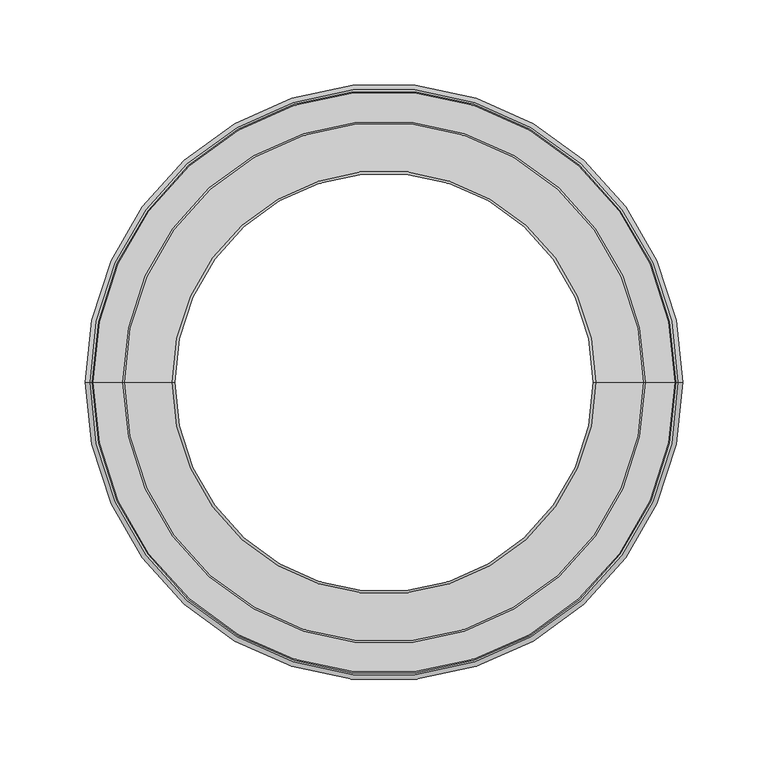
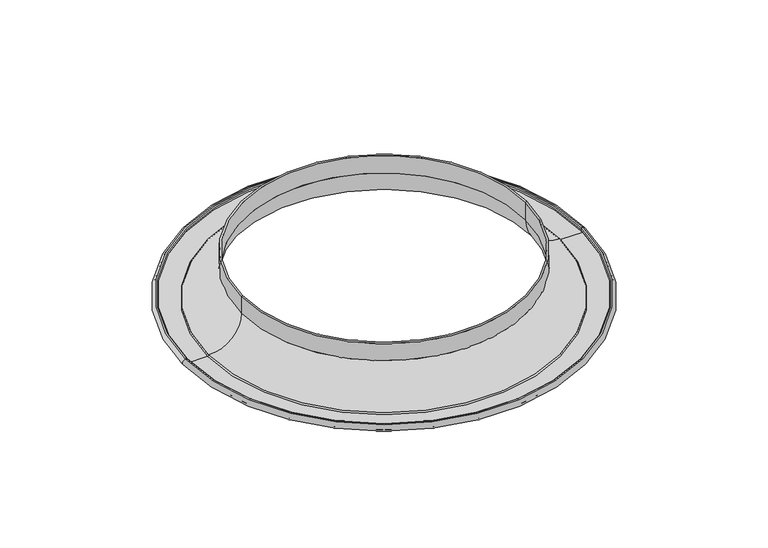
"""IFC4 building model written with IfcOpenShell, lengths in millimetres: air terminal geometry, AI_Bouche aération_Circulaire Reprise : ø250 mm."""

import ifcopenshell
import ifcopenshell.guid

model = None  # the IFC model being written
_history = None  # IfcOwnerHistory: only IFC2X3 demands one
_inside = {}  # id of a spatial element -> (the spatial element, [elements in it])
_under = {}  # id of a project, library or spatial element -> (it, [spatial elements below it])
_declared = {}  # id of a project -> (the project, [libraries it declares])
_typed = {}  # id of a type object -> (the type object, [elements of that type])
_made_of = {}  # id of a material, layer set ... -> (it, [elements and type objects made of it])


def new_model(schema):
    """Start an empty IFC model of exactly this schema.

    Asked for "IFC4X3", IfcOpenShell would pick the latest addendum, in which some entities
    have other attributes; the version numbers below select the first issue.
    IFC2X3 requires an IfcOwnerHistory on every rooted entity: one is made here for all.
    """
    global model, _history
    if schema == "IFC4X3":
        model = ifcopenshell.file(schema_version=(4, 3, 0, 0))
    else:
        model = ifcopenshell.file(schema=schema)
    _inside.clear()
    _under.clear()
    _declared.clear()
    _typed.clear()
    _made_of.clear()
    _history = None
    if model.schema == "IFC2X3":
        org = make("IfcOrganization", Name="unknown")
        user = make(
            "IfcPersonAndOrganization",
            ThePerson=make("IfcPerson", FamilyName="unknown"),
            TheOrganization=org,
        )
        app = make(
            "IfcApplication",
            ApplicationDeveloper=org,
            Version="unknown",
            ApplicationFullName="unknown",
            ApplicationIdentifier="unknown",
        )
        _history = make(
            "IfcOwnerHistory",
            OwningUser=user,
            OwningApplication=app,
            ChangeAction="ADDED",
            CreationDate=0,
        )
    return model


def make(cls, **values):
    """One entity of the class cls with the attributes given. An attribute that is None is left unset."""
    return model.create_entity(
        cls, **{name: value for name, value in values.items() if value is not None}
    )


def rooted(cls, **values):
    """An entity with a GlobalId (a new one), such as an element, a storey or a relation."""
    return make(cls, GlobalId=ifcopenshell.guid.new(), OwnerHistory=_history, **values)


def si_unit(unit_type, name, prefix=None):
    """IfcSIUnit, for example si_unit("LENGTHUNIT", "METRE", prefix="MILLI")."""
    return make("IfcSIUnit", UnitType=unit_type, Prefix=prefix, Name=name)


def assignment(units):
    """IfcUnitAssignment: the units of a project."""
    return None if units is None else make("IfcUnitAssignment", Units=units)


def point(xyz):
    """IfcCartesianPoint."""
    return None if xyz is None else make("IfcCartesianPoint", Coordinates=xyz)


def direction(xyz):
    """IfcDirection."""
    return None if xyz is None else make("IfcDirection", DirectionRatios=xyz)


def frame(location, z_axis=None, x_axis=None):
    """IfcAxis2Placement3D, a coordinate frame: its origin and axes. An axis left out is left unset."""
    return make(
        "IfcAxis2Placement3D",
        Location=point(location),
        Axis=direction(z_axis),
        RefDirection=direction(x_axis),
    )


def origin():
    """The frame at (0, 0, 0) with its axes left unset."""
    return frame((0.0, 0.0, 0.0))


def origin_with_axes():
    """The frame at (0, 0, 0) with the z axis (0, 0, 1) and the x axis (1, 0, 0) written out."""
    return frame((0.0, 0.0, 0.0), z_axis=(0.0, 0.0, 1.0), x_axis=(1.0, 0.0, 0.0))


def place(relative_to, where):
    """IfcLocalPlacement: puts the frame where relative to a parent placement (None: the world)."""
    return make(
        "IfcLocalPlacement", PlacementRelTo=relative_to, RelativePlacement=where
    )


def context(
    kind, dimensions, precision=None, world=None, true_north=None, identifier=None
):
    """IfcGeometricRepresentationContext, for example the 3D "Model" context."""
    return make(
        "IfcGeometricRepresentationContext",
        ContextIdentifier=identifier,
        ContextType=kind,
        CoordinateSpaceDimension=dimensions,
        Precision=precision,
        WorldCoordinateSystem=world,
        TrueNorth=true_north,
    )


def project(units=None, contexts=None):
    """IfcProject with its units and contexts."""
    return rooted(
        "IfcProject",
        Name="project",
        RepresentationContexts=contexts,
        UnitsInContext=assignment(units),
    )


def spatial(cls, under=None, at=None, **own):
    """A site, building, storey or space (cls), placed at a placement, below another one or the project."""
    s = rooted(cls, ObjectPlacement=at, **own)
    if under is not None:
        _under.setdefault(under.id(), (under, []))[1].append(s)
    return s


def polyline(points):
    """IfcPolyline through the points."""
    return make("IfcPolyline", Points=[point(p) for p in points])


def circle_curve(where, radius):
    """IfcCircle in the frame where."""
    return make("IfcCircle", Position=where, Radius=radius)


def ellipse_curve(where, semi_axis1, semi_axis2):
    """IfcEllipse in the frame where."""
    return make(
        "IfcEllipse", Position=where, SemiAxis1=semi_axis1, SemiAxis2=semi_axis2
    )


def trimmed(basis, trim1, trim2, sense, master):
    """IfcTrimmedCurve: the piece of a basis curve between two trims."""
    return make(
        "IfcTrimmedCurve",
        BasisCurve=basis,
        Trim1=trim1,
        Trim2=trim2,
        SenseAgreement=sense,
        MasterRepresentation=master,
    )


def shape(context_of_items, identifier, shape_type, items):
    """IfcShapeRepresentation: the items that make up one representation, for example the "Body"."""
    return make(
        "IfcShapeRepresentation",
        ContextOfItems=context_of_items,
        RepresentationIdentifier=identifier,
        RepresentationType=shape_type,
        Items=items,
    )


def source(mapping_origin, context_of_items, identifier, shape_type, items):
    """IfcRepresentationMap: a shape defined once, which mapped items show again and again."""
    return make(
        "IfcRepresentationMap",
        MappingOrigin=mapping_origin,
        MappedRepresentation=shape(context_of_items, identifier, shape_type, items),
    )


def transform(
    local_origin,
    x_axis=None,
    y_axis=None,
    z_axis=None,
    scale=None,
    scale2=None,
    scale3=None,
    uniform=True,
):
    """IfcCartesianTransformationOperator3D, or its non-uniform kind. x_axis, y_axis, z_axis: its Axis1, 2, 3."""
    if uniform:
        return make(
            "IfcCartesianTransformationOperator3D",
            Axis1=direction(x_axis),
            Axis2=direction(y_axis),
            LocalOrigin=point(local_origin),
            Scale=scale,
            Axis3=direction(z_axis),
        )
    return make(
        "IfcCartesianTransformationOperator3DnonUniform",
        Axis1=direction(x_axis),
        Axis2=direction(y_axis),
        LocalOrigin=point(local_origin),
        Scale=scale,
        Axis3=direction(z_axis),
        Scale2=scale2,
        Scale3=scale3,
    )


def mapped(mapping_source, mapping_target):
    """IfcMappedItem: shows the shape of a source again, moved by a transform."""
    return make(
        "IfcMappedItem", MappingSource=mapping_source, MappingTarget=mapping_target
    )


def made_of(thing, what):
    """Note that an element or type object is made of a material, layer set ...; save() writes the relation."""
    if what is not None:
        _made_of.setdefault(what.id(), (what, []))[1].append(thing)
    return thing


def element(
    cls,
    number,
    at=None,
    inside=None,
    cuts=None,
    type_object=None,
    material=None,
    context=None,
    identifier="Body",
    shape_type=None,
    held_by="IfcProductDefinitionShape",
    body=None,
    shapes=None,
    **own,
):
    """One element of the class cls, such as IfcWall. Its Tag is "e" and its number.

    at: its placement. inside: the storey or other place that contains it. cuts: it is an
    opening in that element (IfcRelVoidsElement). A single representation is given by context,
    identifier, shape_type and body (its items); several are given by shapes. held_by: the class
    of the entity that holds the representations. save() writes the other relations.
    """
    e = rooted(cls, Tag="e%d" % number, ObjectPlacement=at, **own)
    if body is not None:
        shapes = [shape(context, identifier, shape_type, body)]
    if shapes is not None:
        e.Representation = make(held_by, Representations=shapes)
    if inside is not None:
        _inside.setdefault(inside.id(), (inside, []))[1].append(e)
    if cuts is not None:
        rooted(
            "IfcRelVoidsElement", RelatingBuildingElement=cuts, RelatedOpeningElement=e
        )
    if type_object is not None:
        _typed.setdefault(type_object.id(), (type_object, []))[1].append(e)
    return made_of(e, material)


def aggregate(whole, parts):
    """IfcRelAggregates: a whole, such as a stair, and the parts it consists of."""
    return rooted("IfcRelAggregates", RelatingObject=whole, RelatedObjects=parts)


def save(model, path):
    """Write the relations noted so far, then the file.

    IfcRelAggregates (storeys below a building ...), IfcRelContainedInSpatialStructure (elements
    in a storey), IfcRelDefinesByType, IfcRelAssociatesMaterial and IfcRelDeclares: one each for
    every whole, place, type object, material and project.
    """
    for whole, parts in _under.values():
        aggregate(whole, parts)
    for where, things in _inside.values():
        rooted(
            "IfcRelContainedInSpatialStructure",
            RelatedElements=things,
            RelatingStructure=where,
        )
    for kind, things in _typed.values():
        rooted("IfcRelDefinesByType", RelatedObjects=things, RelatingType=kind)
    for what, things in _made_of.values():
        rooted("IfcRelAssociatesMaterial", RelatedObjects=things, RelatingMaterial=what)
    for by, libraries in _declared.values():
        rooted("IfcRelDeclares", RelatingContext=by, RelatedDefinitions=libraries)
    model.write(path)


def plane_surface(at):
    """IfcPlane: the flat surface through the origin of the frame at, square to its z axis."""
    return make("IfcPlane", Position=at)


def cylinder_surface(at, radius):
    """IfcCylindricalSurface: all points at the distance radius from the z axis of the frame at."""
    return make("IfcCylindricalSurface", Position=at, Radius=radius)


def revolved_surface(curve, axis_point, axis_direction):
    """IfcSurfaceOfRevolution: the curve turned about the line through axis_point along axis_direction."""
    return make(
        "IfcSurfaceOfRevolution",
        SweptCurve=make("IfcArbitraryOpenProfileDef", ProfileType="CURVE", Curve=curve),
        AxisPosition=make("IfcAxis1Placement", Location=point(axis_point), Axis=direction(axis_direction)),
    )


def advanced_brep(points, edges, surfaces, faces):
    """IfcAdvancedBrep: a solid bounded by faces that lie on surfaces and meet in shared edges.

    An edge is (start, end): straight between two places in points (the first is 0);
    or (start, end, curve); or (start, end, curve, False) where it runs against its curve.
    A face is (place in surfaces, loops), or (place, loops, False) where it looks against
    its surface's normal. A loop lists edges by number (the first is 1), with a minus sign
    where the edge is run from its end to its start. The first loop is the outer one.
    """
    corners = [point(p) for p in points]
    vertices = [make("IfcVertexPoint", VertexGeometry=c) for c in corners]
    made = []
    for start, end, *more in edges:
        made.append(
            make(
                "IfcEdgeCurve",
                EdgeStart=vertices[start],
                EdgeEnd=vertices[end],
                EdgeGeometry=more[0] if more else make("IfcPolyline", Points=[corners[start], corners[end]]),
                SameSense=more[1] if len(more) > 1 else True,
            )
        )
    hull = []
    for where, loops, *sense in faces:
        bounds = []
        for j, loop in enumerate(loops):
            ring = [make("IfcOrientedEdge", EdgeElement=made[abs(k) - 1], Orientation=k > 0) for k in loop]
            bounds.append(
                make(
                    "IfcFaceOuterBound" if j == 0 else "IfcFaceBound",
                    Bound=make("IfcEdgeLoop", EdgeList=ring),
                    Orientation=True,
                )
            )
        hull.append(make("IfcAdvancedFace", Bounds=bounds, FaceSurface=surfaces[where], SameSense=sense[0] if sense else True))
    return make("IfcAdvancedBrep", Outer=make("IfcClosedShell", CfsFaces=hull))


def air_terminal_83240a47(model_context):
    return source(origin(), model_context, "Body", "AdvancedBrep", [
        advanced_brep(
        [(-171.25, 0.0, 0.0), (171.25, 0.0, 0.0), (172.25, 0.0, 0.0), (-172.25, 0.0, 0.0), (-171.25, 0.0, -1.2999996), (171.25, 0.0, -1.2999996), (-172.25, 0.0, -1.2999996), (172.25, 0.0, -1.2999996), (-172.25, 0.0, -4.1991736), (172.25, 0.0, -4.1991736), (-153.3001846, 0.0, -4.1991736), (153.3001846, 0.0, -4.1991736), (-152.2992909, 0.0, -3.1982799), (152.2992909, 0.0, -3.1982799), (-124.0, 0.0, 24.875609), (124.0, 0.0, 24.875609), (-122.7, 0.0, 40.5), (122.7, 0.0, 40.5), (124.0, 0.0, 40.5), (-124.0, 0.0, 40.5), (-122.7, 0.0, 24.4500004), (122.7, 0.0, 24.4500004), (-150.0550919, 0.0, -4.456033), (150.0550919, 0.0, -4.456033), (-150.7590282, 0.0, -4.8034563), (150.7590282, 0.0, -4.8034563), (-152.2759333, 0.0, -5.5), (152.2759333, 0.0, -5.5), (-172.25, 0.0, -5.5), (172.25, 0.0, -5.5)],
        [
            (0, 1, circle_curve(frame((0.0, 0.0, 0.0), z_axis=(0.0, 0.0, -1.0), x_axis=(1.0, 0.0, 0.0)), 171.25)),
            (1, 2),
            (2, 3, circle_curve(origin_with_axes(), 172.25)),
            (3, 0),
            (1, 0, circle_curve(frame((0.0, 0.0, 0.0), z_axis=(0.0, 0.0, -1.0), x_axis=(1.0, 0.0, 0.0)), 171.25)),
            (3, 2, circle_curve(origin_with_axes(), 172.25)),
            (4, 5, circle_curve(frame((0.0, 0.0, -1.2999996), z_axis=(0.0, 0.0, -1.0), x_axis=(1.0, 0.0, 0.0)), 171.25)),
            (5, 1, circle_curve(frame((171.25, 0.0, -0.6499998), z_axis=(0.0, 1.0, 0.0), x_axis=(1.0, 0.0, 0.0)), 0.6499998)),
            (0, 4, circle_curve(frame((-171.25, 0.0, -0.6499998), z_axis=(0.0, 1.0, 0.0), x_axis=(-1.0, 0.0, 0.0)), 0.6499998)),
            (5, 4, circle_curve(frame((0.0, 0.0, -1.2999996), z_axis=(0.0, 0.0, -1.0), x_axis=(1.0, 0.0, 0.0)), 171.25)),
            (6, 7, circle_curve(frame((0.0, 0.0, -1.2999996), z_axis=(0.0, 0.0, -1.0), x_axis=(1.0, 0.0, 0.0)), 172.25)),
            (7, 5),
            (4, 6),
            (7, 6, circle_curve(frame((0.0, 0.0, -1.2999996), z_axis=(0.0, 0.0, -1.0), x_axis=(1.0, 0.0, 0.0)), 172.25)),
            (8, 9, circle_curve(frame((0.0, 0.0, -4.1991736), z_axis=(0.0, 0.0, -1.0), x_axis=(1.0, 0.0, 0.0)), 172.25)),
            (9, 7, circle_curve(frame((172.25, 0.0, -2.7495866), z_axis=(0.0, -1.0, 0.0), x_axis=(1.0, 0.0, 0.0)), 1.449587)),
            (6, 8, circle_curve(frame((-172.25, 0.0, -2.7495866), z_axis=(0.0, -1.0, 0.0), x_axis=(-1.0, 0.0, 0.0)), 1.449587)),
            (9, 8, circle_curve(frame((0.0, 0.0, -4.1991736), z_axis=(0.0, 0.0, -1.0), x_axis=(1.0, 0.0, 0.0)), 172.25)),
            (10, 11, circle_curve(frame((0.0, 0.0, -4.1991736), z_axis=(0.0, 0.0, -1.0), x_axis=(1.0, 0.0, 0.0)), 153.3001846)),
            (11, 9),
            (8, 10),
            (11, 10, circle_curve(frame((0.0, 0.0, -4.1991736), z_axis=(0.0, 0.0, -1.0), x_axis=(1.0, 0.0, 0.0)), 153.3001846)),
            (12, 13, circle_curve(frame((0.0, 0.0, -3.1982799), z_axis=(0.0, 0.0, -1.0), x_axis=(1.0, 0.0, 0.0)), 152.2992909)),
            (13, 11, circle_curve(frame((153.3001846, 0.0, -3.1982799), z_axis=(0.0, -1.0, 0.0), x_axis=(1.0, 0.0, 0.0)), 1.0008937)),
            (10, 12, circle_curve(frame((-153.3001846, 0.0, -3.1982799), z_axis=(0.0, -1.0, 0.0), x_axis=(-1.0, 0.0, 0.0)), 1.0008937)),
            (13, 12, circle_curve(frame((0.0, 0.0, -3.1982799), z_axis=(0.0, 0.0, -1.0), x_axis=(1.0, 0.0, 0.0)), 152.2992909)),
            (14, 15, circle_curve(frame((0.0, 0.0, 24.875609), z_axis=(0.0, 0.0, -1.0), x_axis=(1.0, 0.0, 0.0)), 124.0)),
            (15, 13, circle_curve(frame((151.6496309, 0.0, 24.4470397), z_axis=(0.0, -1.0, 0.0), x_axis=(1.0, 0.0, 0.0)), 27.6529521)),
            (12, 14, circle_curve(frame((-151.6496309, 0.0, 24.4470397), z_axis=(0.0, -1.0, 0.0), x_axis=(-1.0, 0.0, 0.0)), 27.6529521)),
            (15, 14, circle_curve(frame((0.0, 0.0, 24.875609), z_axis=(0.0, 0.0, -1.0), x_axis=(1.0, 0.0, 0.0)), 124.0)),
            (16, 17, circle_curve(frame((0.0, 0.0, 40.5), z_axis=(0.0, 0.0, -1.0), x_axis=(1.0, 0.0, 0.0)), 122.7)),
            (17, 18, circle_curve(frame((123.35, 0.0, 40.5), z_axis=(0.0, 1.0, 0.0), x_axis=(1.0, 0.0, 0.0)), 0.65)),
            (18, 19, circle_curve(frame((0.0, 0.0, 40.5), z_axis=(0.0, 0.0, 1.0), x_axis=(1.0, 0.0, 0.0)), 124.0)),
            (19, 16, circle_curve(frame((-123.35, 0.0, 40.5), z_axis=(0.0, 1.0, 0.0), x_axis=(-1.0, 0.0, 0.0)), 0.65)),
            (17, 16, circle_curve(frame((0.0, 0.0, 40.5), z_axis=(0.0, 0.0, -1.0), x_axis=(1.0, 0.0, 0.0)), 122.7)),
            (19, 18, circle_curve(frame((0.0, 0.0, 40.5), z_axis=(0.0, 0.0, 1.0), x_axis=(1.0, 0.0, 0.0)), 124.0)),
            (20, 21, circle_curve(frame((0.0, 0.0, 24.4500004), z_axis=(0.0, 0.0, -1.0), x_axis=(1.0, 0.0, 0.0)), 122.7)),
            (21, 17),
            (16, 20),
            (21, 20, circle_curve(frame((0.0, 0.0, 24.4500004), z_axis=(0.0, 0.0, -1.0), x_axis=(1.0, 0.0, 0.0)), 122.7)),
            (22, 23, circle_curve(frame((0.0, 0.0, -4.456033), z_axis=(0.0, 0.0, -1.0), x_axis=(1.0, 0.0, 0.0)), 150.0550919)),
            (23, 21, circle_curve(frame((151.65, 0.0, 24.4500004), z_axis=(0.0, 1.0, 0.0), x_axis=(1.0, 0.0, 0.0)), 28.95)),
            (20, 22, circle_curve(frame((-151.65, 0.0, 24.4500004), z_axis=(0.0, 1.0, 0.0), x_axis=(-1.0, 0.0, 0.0)), 28.95)),
            (23, 22, circle_curve(frame((0.0, 0.0, -4.456033), z_axis=(0.0, 0.0, -1.0), x_axis=(1.0, 0.0, 0.0)), 150.0550919)),
            (24, 25, circle_curve(frame((0.0, 0.0, -4.8034563), z_axis=(0.0, 0.0, -1.0), x_axis=(1.0, 0.0, 0.0)), 150.7590282)),
            (25, 23, circle_curve(frame((150.0, 0.0, -5.4545147), z_axis=(0.0, -1.0, 0.0), x_axis=(1.0, 0.0, 0.0)), 1.0000004)),
            (22, 24, circle_curve(frame((-150.0, 0.0, -5.4545147), z_axis=(0.0, -1.0, 0.0), x_axis=(-1.0, 0.0, 0.0)), 1.0000004)),
            (25, 24, circle_curve(frame((0.0, 0.0, -4.8034563), z_axis=(0.0, 0.0, -1.0), x_axis=(1.0, 0.0, 0.0)), 150.7590282)),
            (26, 27, circle_curve(frame((0.0, 0.0, -5.5), z_axis=(0.0, 0.0, -1.0), x_axis=(1.0, 0.0, 0.0)), 152.2759333)),
            (27, 25, circle_curve(frame((152.2759333, 0.0, -3.5000004), z_axis=(0.0, 1.0, 0.0), x_axis=(1.0, 0.0, 0.0)), 1.9999996)),
            (24, 26, circle_curve(frame((-152.2759333, 0.0, -3.5000004), z_axis=(0.0, 1.0, 0.0), x_axis=(-1.0, 0.0, 0.0)), 1.9999996)),
            (27, 26, circle_curve(frame((0.0, 0.0, -5.5), z_axis=(0.0, 0.0, -1.0), x_axis=(1.0, 0.0, 0.0)), 152.2759333)),
            (28, 29, circle_curve(frame((0.0, 0.0, -5.5), z_axis=(0.0, 0.0, -1.0), x_axis=(1.0, 0.0, 0.0)), 172.25)),
            (29, 27),
            (26, 28),
            (29, 28, circle_curve(frame((0.0, 0.0, -5.5), z_axis=(0.0, 0.0, -1.0), x_axis=(1.0, 0.0, 0.0)), 172.25)),
            (2, 29, circle_curve(frame((172.25, 0.0, -2.75), z_axis=(0.0, 1.0, 0.0), x_axis=(1.0, 0.0, 0.0)), 2.75)),
            (28, 3, circle_curve(frame((-172.25, 0.0, -2.75), z_axis=(0.0, 1.0, 0.0), x_axis=(-1.0, 0.0, 0.0)), 2.75)),
            (18, 15),
            (14, 19),
        ],
        [
            plane_surface(origin_with_axes()),
            revolved_surface(trimmed(ellipse_curve(frame((171.25, 0.0, -0.6499998), z_axis=(0.0, -1.0, 0.0), x_axis=(1.0, 0.0, 0.0)), 0.6499998, 0.6499998), [point((171.25, 0.0, 0.0))], [point((171.25, 0.0, -1.2999996))], True, "CARTESIAN"), (0.0, 0.0, 1789.7688894), (0.0, 0.0, 1.0)),
            plane_surface(frame((0.0, 0.0, -1.2999996), z_axis=(0.0, 0.0, -1.0), x_axis=(1.0, 0.0, 0.0))),
            revolved_surface(trimmed(ellipse_curve(frame((172.25, 0.0, -2.7495866), z_axis=(0.0, 1.0, 0.0), x_axis=(1.0, 0.0, 0.0)), 1.449587, 1.449587), [point((172.25, 0.0, -1.2999996))], [point((172.25, 0.0, -4.1991736))], True, "CARTESIAN"), (0.0, 0.0, 1789.7688894), (0.0, 0.0, 1.0)),
            plane_surface(frame((0.0, 0.0, -4.1991736), z_axis=(0.0, 0.0, 1.0), x_axis=(1.0, 0.0, 0.0))),
            revolved_surface(trimmed(ellipse_curve(frame((153.3001846, 0.0, -3.1982799), z_axis=(0.0, 1.0, 0.0), x_axis=(1.0, 0.0, 0.0)), 1.0008937, 1.0008937), [point((153.3001846, 0.0, -4.1991736))], [point((152.2992909, 0.0, -3.1982799))], True, "CARTESIAN"), (0.0, 0.0, 1789.7688894), (0.0, 0.0, 1.0)),
            revolved_surface(trimmed(ellipse_curve(frame((151.6496309, 0.0, 24.4470397), z_axis=(0.0, 1.0, 0.0), x_axis=(1.0, 0.0, 0.0)), 27.6529521, 27.6529521), [point((152.2992909, 0.0, -3.1982799))], [point((124.0, 0.0, 24.875609))], True, "CARTESIAN"), (0.0, 0.0, 1789.7688894), (0.0, 0.0, 1.0)),
            revolved_surface(trimmed(ellipse_curve(frame((123.35, 0.0, 40.5), z_axis=(0.0, -1.0, 0.0), x_axis=(1.0, 0.0, 0.0)), 0.65, 0.65), [point((124.0, 0.0, 40.5))], [point((122.7, 0.0, 40.5))], True, "CARTESIAN"), (0.0, 0.0, 1789.7688894), (0.0, 0.0, 1.0)),
            revolved_surface(polyline([(122.7, 0.0, 40.5), (122.7, 0.0, 24.450000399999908)]), (0.0, 0.0, 1789.7688894), (0.0, 0.0, 1.0)),
            revolved_surface(trimmed(ellipse_curve(frame((151.65, 0.0, 24.4500004), z_axis=(0.0, -1.0, 0.0), x_axis=(1.0, 0.0, 0.0)), 28.95, 28.95), [point((122.7, 0.0, 24.4500004))], [point((150.0550919, 0.0, -4.456033))], True, "CARTESIAN"), (0.0, 0.0, 1789.7688894), (0.0, 0.0, 1.0)),
            revolved_surface(trimmed(ellipse_curve(frame((150.0, 0.0, -5.4545147), z_axis=(0.0, 1.0, 0.0), x_axis=(1.0, 0.0, 0.0)), 1.0000004, 1.0000004), [point((150.0550919, 0.0, -4.456033))], [point((150.7590282, 0.0, -4.8034563))], True, "CARTESIAN"), (0.0, 0.0, 1789.7688894), (0.0, 0.0, 1.0)),
            revolved_surface(trimmed(ellipse_curve(frame((152.2759333, 0.0, -3.5000004), z_axis=(0.0, -1.0, 0.0), x_axis=(1.0, 0.0, 0.0)), 1.9999996, 1.9999996), [point((150.7590282, 0.0, -4.8034563))], [point((152.2759333, 0.0, -5.5))], True, "CARTESIAN"), (0.0, 0.0, 1789.7688894), (0.0, 0.0, 1.0)),
            plane_surface(frame((0.0, 0.0, -5.5), z_axis=(0.0, 0.0, -1.0), x_axis=(1.0, 0.0, 0.0))),
            revolved_surface(trimmed(ellipse_curve(frame((172.25, 0.0, -2.75), z_axis=(0.0, -1.0, 0.0), x_axis=(1.0, 0.0, 0.0)), 2.75, 2.75), [point((172.25, 0.0, -5.5))], [point((172.25, 0.0, 0.0))], True, "CARTESIAN"), (0.0, 0.0, 1789.7688894), (0.0, 0.0, 1.0)),
            cylinder_surface(frame((0.0, 0.0, 1789.7688894), z_axis=(0.0, 0.0, 1.0), x_axis=(1.0, 0.0, 0.0)), 124.0),
        ],
        [
            (0, [[1, 2, 3, 4]]),
            (0, [[5, -4, 6, -2]]),
            (1, [[7, 8, -1, 9]]),
            (1, [[10, -9, -5, -8]]),
            (2, [[11, 12, -7, 13]]),
            (2, [[14, -13, -10, -12]]),
            (3, [[15, 16, -11, 17]]),
            (3, [[18, -17, -14, -16]]),
            (4, [[19, 20, -15, 21]]),
            (4, [[22, -21, -18, -20]]),
            (5, [[23, 24, -19, 25]]),
            (5, [[26, -25, -22, -24]]),
            (6, [[27, 28, -23, 29]]),
            (6, [[30, -29, -26, -28]]),
            (7, [[31, 32, 33, 34]]),
            (7, [[35, -34, 36, -32]]),
            (8, [[37, 38, -31, 39]]),
            (8, [[40, -39, -35, -38]]),
            (9, [[41, 42, -37, 43]]),
            (9, [[44, -43, -40, -42]]),
            (10, [[45, 46, -41, 47]]),
            (10, [[48, -47, -44, -46]]),
            (11, [[49, 50, -45, 51]]),
            (11, [[52, -51, -48, -50]]),
            (12, [[53, 54, -49, 55]]),
            (12, [[56, -55, -52, -54]]),
            (13, [[-3, 57, -53, 58]]),
            (13, [[-6, -58, -56, -57]]),
            (14, [[-33, 59, -27, 60]]),
            (14, [[-36, -60, -30, -59]]),
        ],
    ),
    ])


if __name__ == "__main__":
    model = new_model("IFC4")
    model_context = context("Model", 3, world=origin())
    ifc_project = project(units=[si_unit("LENGTHUNIT", "METRE", prefix="MILLI")], contexts=[model_context])
    site = spatial("IfcSite", under=ifc_project)
    building = spatial("IfcBuilding", under=site)
    placement = place(None, origin())
    air_terminal_shape = air_terminal_83240a47(model_context)
    element("IfcAirTerminal", 1, ObjectType="AI_Bouche aération_Circulaire Reprise : ø250 mm", at=placement, inside=building, context=model_context, shape_type="MappedRepresentation", body=[
        mapped(air_terminal_shape, transform((0.0, 0.0, 0.0), x_axis=(1.0, 0.0, 0.0), y_axis=(0.0, 1.0, 0.0), z_axis=(0.0, 0.0, 1.0))),
    ])
    save(model, "model.ifc")
